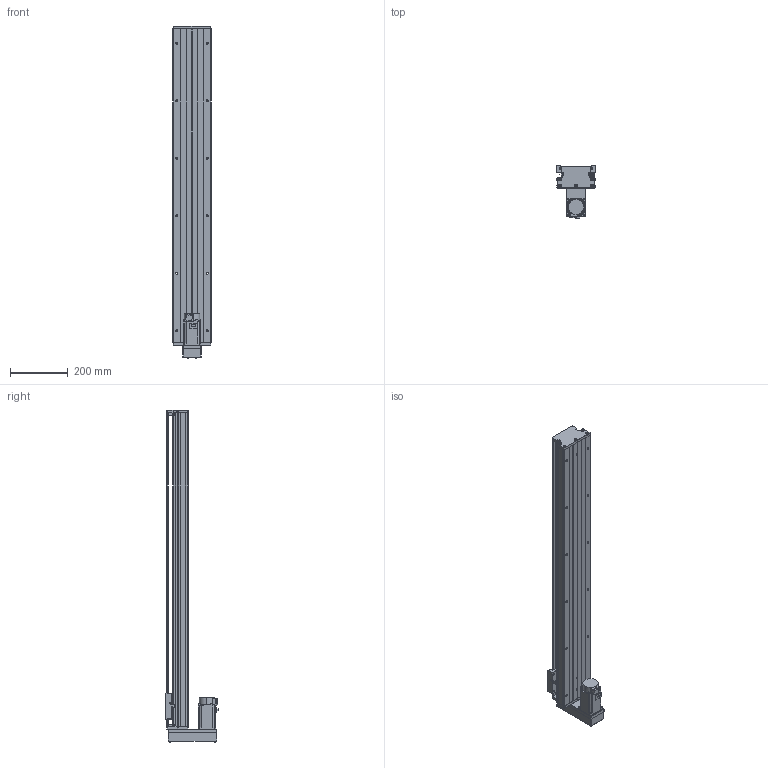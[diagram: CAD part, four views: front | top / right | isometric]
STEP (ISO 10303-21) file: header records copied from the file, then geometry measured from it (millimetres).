
FILE_DESCRIPTION (( 'STEP AP203' ), '1' );
FILE_NAME ('KTH130-950-BM-M40-C4.step', '2023-06-30T04:06:24', ( '微软用户' ), ( '微软中国' ), 'SwSTEP 2.0', 'SolidWorks 2020', '' );
FILE_SCHEMA (( 'CONFIG_CONTROL_DESIGN' ));
Length unit declared in the file: millimetre
Products named in the file (19): KTH130-005; GBT 70.1-M3℅5; GTH14-033; GB1155-6X6; GBT77-2000 M3×3; KTH130-950-BM-M40-C4; GBT70.1 M5℅16; す晦芛蹟隊 M3℅5; GBT 70.2-M3¡Á5_M3¡Á6; GBT 70.3-M3℅8; GTH14-001_950; CTHA60-017; HG-KN43J-S100; KTH130-002_KTH130-002; EE_SX911P_R; GBT 70.2-M4¡Á35_M4¡Á35; KTH130-004; CTHA60-016; GTH14-015-2_CTHA86-015-2
Assembly tree (53 placements, depth 2):
  KTH130-950-BM-M40-C4
    GTH14-001_950
    KTH130-002_KTH130-002
    KTH130-004
    KTH130-005
    GB1155-6X6  x2
    GBT70.1 M5℅16  x10
    GBT 70.2-M3¡Á5_M3¡Á6  x4
    CTHA60-017  x3
    EE_SX911P_R  x3
    CTHA60-016  x2
    GBT 70.1-M3℅5  x6
    GBT77-2000 M3×3  x6
    す晦芛蹟隊 M3℅5  x2
    GBT 70.3-M3℅8  x4
    HG-KN43J-S100
    GBT 70.2-M4¡Á35_M4¡Á35  x4
    GTH14-015-2_CTHA86-015-2
    GTH14-033
Bounding box: 135 x 181.8 x 1154.2 mm (x, y, z)
Volume: 6433873.6 mm3; surface area: 1019271.8 mm2
Topology: 56 solids, 56 shells, 2233 faces, 5390 edges, 3358 vertices
Faces by surface type: plane 1199, cylinder 620, cone 290, torus 100, sphere 24
Entity records: 40866 total; most frequent: CARTESIAN_POINT 8684, DIRECTION 6099, ORIENTED_EDGE 5980, EDGE_CURVE 2990, AXIS2_PLACEMENT_3D 2104, VERTEX_POINT 1911, LINE 1891, VECTOR 1891
